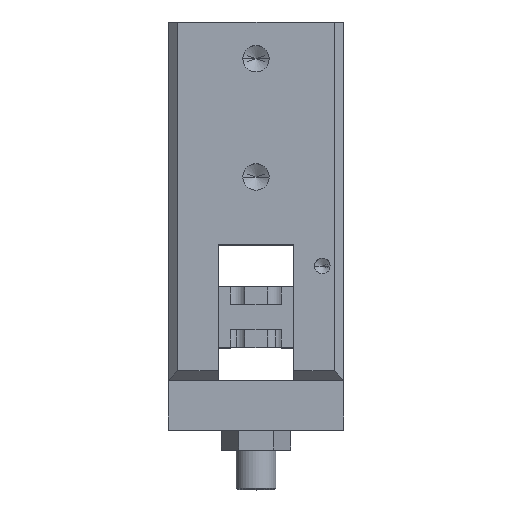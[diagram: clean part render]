
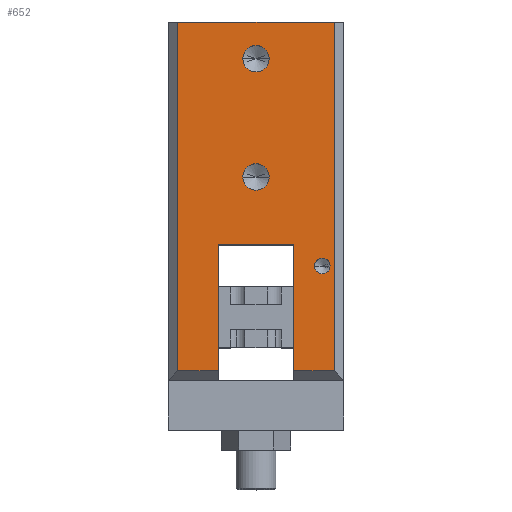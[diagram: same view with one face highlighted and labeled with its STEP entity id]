
A CAD part, top view. The second image highlights one B-rep face of the part: STEP entity #652.
In plain terms, the highlighted planar face has unit normal (0, 0, 1).
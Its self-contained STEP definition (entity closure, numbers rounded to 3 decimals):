
#34 = VECTOR ( 'NONE', #4637, 1000. ) ;
#84 = ORIENTED_EDGE ( 'NONE', *, *, #5052, .F. ) ;
#121 = CARTESIAN_POINT ( 'NONE',  ( 0., 22.733, 19.494 ) ) ;
#145 = CARTESIAN_POINT ( 'NONE',  ( 2.1, 3.861, 19.494 ) ) ;
#166 = CARTESIAN_POINT ( 'NONE',  ( 10.566, -10.338, 19.494 ) ) ;
#216 = VERTEX_POINT ( 'NONE', #3122 ) ;
#243 = VERTEX_POINT ( 'NONE', #4121 ) ;
#248 = CARTESIAN_POINT ( 'NONE',  ( 0., 22.733, 19.494 ) ) ;
#367 = ORIENTED_EDGE ( 'NONE', *, *, #5006, .T. ) ;
#399 = EDGE_LOOP ( 'NONE', ( #5648, #4969 ) ) ;
#428 = ORIENTED_EDGE ( 'NONE', *, *, #2171, .F. ) ;
#556 = AXIS2_PLACEMENT_3D ( 'NONE', #1414, #4647, #1878 ) ;
#598 = DIRECTION ( 'NONE',  ( 1., 0., 0. ) ) ;
#639 = DIRECTION ( 'NONE',  ( 1., 0., 0. ) ) ;
#652 = ADVANCED_FACE ( 'NONE', ( #1508, #3684, #1382, #2445 ), #5099, .F. ) ;
#724 = DIRECTION ( 'NONE',  ( 1., 0., 0. ) ) ;
#735 = CARTESIAN_POINT ( 'NONE',  ( 0., 3.861, 19.494 ) ) ;
#756 = CARTESIAN_POINT ( 'NONE',  ( 6.032, -28.575, 19.494 ) ) ;
#775 = CARTESIAN_POINT ( 'NONE',  ( 12.471, -27.051, 19.494 ) ) ;
#894 = CARTESIAN_POINT ( 'NONE',  ( -6.032, -28.575, 19.494 ) ) ;
#969 = CARTESIAN_POINT ( 'NONE',  ( -6.032, -6.985, 19.494 ) ) ;
#1006 = VERTEX_POINT ( 'NONE', #4393 ) ;
#1193 = DIRECTION ( 'NONE',  ( 1., 0., 0. ) ) ;
#1233 = LINE ( 'NONE', #969, #4775 ) ;
#1264 = AXIS2_PLACEMENT_3D ( 'NONE', #121, #3360, #598 ) ;
#1270 = LINE ( 'NONE', #1404, #34 ) ;
#1290 = CARTESIAN_POINT ( 'NONE',  ( -13.995, -27.051, 19.494 ) ) ;
#1372 = CARTESIAN_POINT ( 'NONE',  ( -2.1, 3.861, 19.494 ) ) ;
#1382 = FACE_BOUND ( 'NONE', #399, .T. ) ;
#1395 = EDGE_CURVE ( 'NONE', #5556, #3690, #3159, .T. ) ;
#1404 = CARTESIAN_POINT ( 'NONE',  ( 12.471, 28.575, 19.494 ) ) ;
#1414 = CARTESIAN_POINT ( 'NONE',  ( 10.566, -10.338, 19.494 ) ) ;
#1430 = DIRECTION ( 'NONE',  ( -1., 0., 0. ) ) ;
#1452 = AXIS2_PLACEMENT_3D ( 'NONE', #735, #3954, #1193 ) ;
#1508 = FACE_BOUND ( 'NONE', #5398, .T. ) ;
#1512 = AXIS2_PLACEMENT_3D ( 'NONE', #248, #3475, #724 ) ;
#1598 = LINE ( 'NONE', #3449, #5164 ) ;
#1866 = VECTOR ( 'NONE', #5138, 1000. ) ;
#1878 = DIRECTION ( 'NONE',  ( 1., 0., 0. ) ) ;
#1994 = CARTESIAN_POINT ( 'NONE',  ( 0., 3.861, 19.494 ) ) ;
#2033 = CARTESIAN_POINT ( 'NONE',  ( -6.032, -27.051, 19.494 ) ) ;
#2048 = EDGE_LOOP ( 'NONE', ( #3343, #5100, #2597, #2201, #3979, #367, #4280, #3283 ) ) ;
#2057 = DIRECTION ( 'NONE',  ( 0., -1., 0. ) ) ;
#2076 = CARTESIAN_POINT ( 'NONE',  ( 12.471, 28.575, 19.494 ) ) ;
#2080 = EDGE_CURVE ( 'NONE', #1006, #3755, #3364, .T. ) ;
#2088 = ORIENTED_EDGE ( 'NONE', *, *, #5738, .F. ) ;
#2171 = EDGE_CURVE ( 'NONE', #3234, #216, #3729, .T. ) ;
#2201 = ORIENTED_EDGE ( 'NONE', *, *, #2080, .F. ) ;
#2202 = LINE ( 'NONE', #1290, #2780 ) ;
#2302 = CARTESIAN_POINT ( 'NONE',  ( -13.995, -27.051, 19.494 ) ) ;
#2336 = CARTESIAN_POINT ( 'NONE',  ( -13.995, 28.575, 19.494 ) ) ;
#2351 = CARTESIAN_POINT ( 'NONE',  ( -13.995, 28.575, 19.494 ) ) ;
#2445 = FACE_OUTER_BOUND ( 'NONE', #2048, .T. ) ;
#2459 = DIRECTION ( 'NONE',  ( 1., 0., 0. ) ) ;
#2494 = AXIS2_PLACEMENT_3D ( 'NONE', #166, #3398, #639 ) ;
#2597 = ORIENTED_EDGE ( 'NONE', *, *, #3003, .T. ) ;
#2636 = DIRECTION ( 'NONE',  ( 0., -1., 0. ) ) ;
#2681 = DIRECTION ( 'NONE',  ( 1., 0., 0. ) ) ;
#2779 = VERTEX_POINT ( 'NONE', #3518 ) ;
#2780 = VECTOR ( 'NONE', #2681, 1000. ) ;
#3002 = EDGE_LOOP ( 'NONE', ( #5318, #428 ) ) ;
#3003 = EDGE_CURVE ( 'NONE', #3436, #3755, #1270, .T. ) ;
#3122 = CARTESIAN_POINT ( 'NONE',  ( 2.1, 22.733, 19.494 ) ) ;
#3159 = LINE ( 'NONE', #894, #4387 ) ;
#3204 = DIRECTION ( 'NONE',  ( 1., 0., 0. ) ) ;
#3210 = VECTOR ( 'NONE', #3977, 1000. ) ;
#3234 = VERTEX_POINT ( 'NONE', #5691 ) ;
#3245 = CARTESIAN_POINT ( 'NONE',  ( 9.316, -10.338, 19.494 ) ) ;
#3250 = VERTEX_POINT ( 'NONE', #3844 ) ;
#3258 = DIRECTION ( 'NONE',  ( -1., 0., 0. ) ) ;
#3273 = DIRECTION ( 'NONE',  ( 0., 0., -1. ) ) ;
#3283 = ORIENTED_EDGE ( 'NONE', *, *, #5920, .F. ) ;
#3343 = ORIENTED_EDGE ( 'NONE', *, *, #3813, .F. ) ;
#3360 = DIRECTION ( 'NONE',  ( 0., 0., 1. ) ) ;
#3364 = LINE ( 'NONE', #2351, #1866 ) ;
#3397 = LINE ( 'NONE', #2302, #5883 ) ;
#3398 = DIRECTION ( 'NONE',  ( 0., 0., 1. ) ) ;
#3436 = VERTEX_POINT ( 'NONE', #775 ) ;
#3449 = CARTESIAN_POINT ( 'NONE',  ( -12.471, 28.575, 19.494 ) ) ;
#3475 = DIRECTION ( 'NONE',  ( 0., 0., 1. ) ) ;
#3511 = EDGE_CURVE ( 'NONE', #243, #3436, #2202, .T. ) ;
#3518 = CARTESIAN_POINT ( 'NONE',  ( 11.816, -10.338, 19.494 ) ) ;
#3629 = EDGE_CURVE ( 'NONE', #3645, #5833, #5177, .T. ) ;
#3645 = VERTEX_POINT ( 'NONE', #145 ) ;
#3670 = VERTEX_POINT ( 'NONE', #5274 ) ;
#3684 = FACE_BOUND ( 'NONE', #3002, .T. ) ;
#3690 = VERTEX_POINT ( 'NONE', #2033 ) ;
#3725 = AXIS2_PLACEMENT_3D ( 'NONE', #1994, #5252, #2459 ) ;
#3729 = CIRCLE ( 'NONE', #1512, 2.1 ) ;
#3731 = CARTESIAN_POINT ( 'NONE',  ( -6.032, -6.985, 19.494 ) ) ;
#3755 = VERTEX_POINT ( 'NONE', #2076 ) ;
#3758 = CIRCLE ( 'NONE', #1264, 2.1 ) ;
#3788 = EDGE_CURVE ( 'NONE', #5833, #3645, #5826, .T. ) ;
#3813 = EDGE_CURVE ( 'NONE', #243, #3670, #5680, .T. ) ;
#3844 = CARTESIAN_POINT ( 'NONE',  ( -12.471, -27.051, 19.494 ) ) ;
#3954 = DIRECTION ( 'NONE',  ( 0., 0., 1. ) ) ;
#3977 = DIRECTION ( 'NONE',  ( 0., 1., 0. ) ) ;
#3979 = ORIENTED_EDGE ( 'NONE', *, *, #5172, .T. ) ;
#4121 = CARTESIAN_POINT ( 'NONE',  ( 6.032, -27.051, 19.494 ) ) ;
#4280 = ORIENTED_EDGE ( 'NONE', *, *, #1395, .F. ) ;
#4387 = VECTOR ( 'NONE', #2636, 1000. ) ;
#4393 = CARTESIAN_POINT ( 'NONE',  ( -12.471, 28.575, 19.494 ) ) ;
#4637 = DIRECTION ( 'NONE',  ( 0., 1., 0. ) ) ;
#4647 = DIRECTION ( 'NONE',  ( 0., 0., 1. ) ) ;
#4648 = CIRCLE ( 'NONE', #556, 1.25 ) ;
#4775 = VECTOR ( 'NONE', #1430, 1000. ) ;
#4969 = ORIENTED_EDGE ( 'NONE', *, *, #3788, .F. ) ;
#5006 = EDGE_CURVE ( 'NONE', #3250, #3690, #3397, .T. ) ;
#5052 = EDGE_CURVE ( 'NONE', #5078, #2779, #4648, .T. ) ;
#5078 = VERTEX_POINT ( 'NONE', #3245 ) ;
#5099 = PLANE ( 'NONE',  #5325 ) ;
#5100 = ORIENTED_EDGE ( 'NONE', *, *, #3511, .T. ) ;
#5138 = DIRECTION ( 'NONE',  ( 1., 0., 0. ) ) ;
#5164 = VECTOR ( 'NONE', #2057, 1000. ) ;
#5172 = EDGE_CURVE ( 'NONE', #1006, #3250, #1598, .T. ) ;
#5177 = CIRCLE ( 'NONE', #3725, 2.1 ) ;
#5252 = DIRECTION ( 'NONE',  ( 0., 0., 1. ) ) ;
#5274 = CARTESIAN_POINT ( 'NONE',  ( 6.032, -6.985, 19.494 ) ) ;
#5318 = ORIENTED_EDGE ( 'NONE', *, *, #5706, .F. ) ;
#5325 = AXIS2_PLACEMENT_3D ( 'NONE', #2336, #3273, #3258 ) ;
#5398 = EDGE_LOOP ( 'NONE', ( #2088, #84 ) ) ;
#5556 = VERTEX_POINT ( 'NONE', #3731 ) ;
#5648 = ORIENTED_EDGE ( 'NONE', *, *, #3629, .F. ) ;
#5680 = LINE ( 'NONE', #756, #3210 ) ;
#5691 = CARTESIAN_POINT ( 'NONE',  ( -2.1, 22.733, 19.494 ) ) ;
#5706 = EDGE_CURVE ( 'NONE', #216, #3234, #3758, .T. ) ;
#5738 = EDGE_CURVE ( 'NONE', #2779, #5078, #5947, .T. ) ;
#5826 = CIRCLE ( 'NONE', #1452, 2.1 ) ;
#5833 = VERTEX_POINT ( 'NONE', #1372 ) ;
#5883 = VECTOR ( 'NONE', #3204, 1000. ) ;
#5920 = EDGE_CURVE ( 'NONE', #3670, #5556, #1233, .T. ) ;
#5947 = CIRCLE ( 'NONE', #2494, 1.25 ) ;
